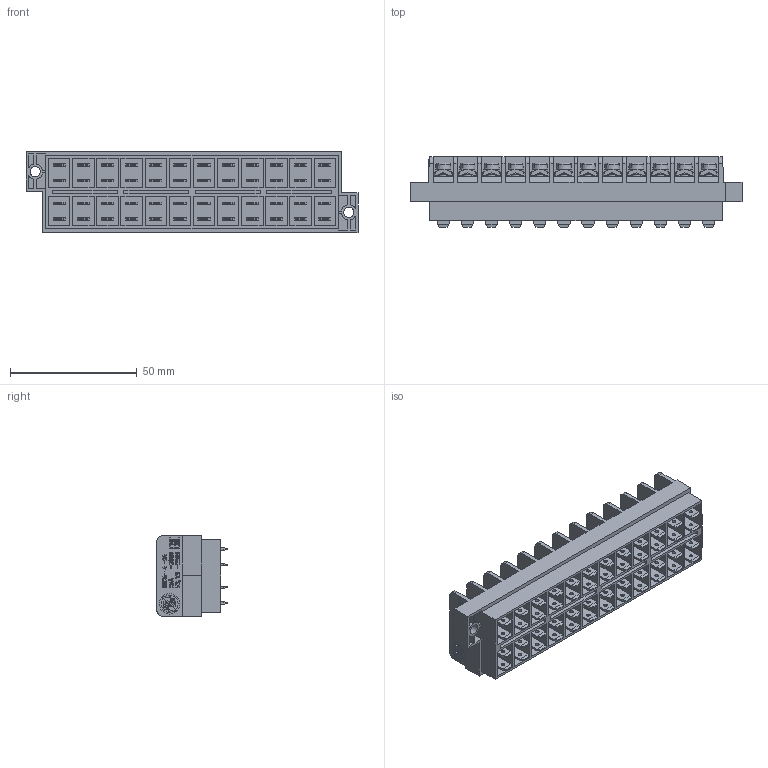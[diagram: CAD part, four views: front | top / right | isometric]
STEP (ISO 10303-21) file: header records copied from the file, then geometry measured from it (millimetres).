
FILE_DESCRIPTION(('STEP AP214'), '1');
FILE_NAME('栖闉罻 24', '', ('UNSPECIFIED'), ('UNSPECIFIED'), 'ASCON STEP Converter 1.6', 'ASCON Math Kernel', '');
FILE_SCHEMA(('AUTOMOTIVE_DESIGN { 1 0 10303 214 3 1 1}'));
Length unit declared in the file: millimetre
Bounding box: 131 x 27.7 x 32 mm (x, y, z)
Volume: 52070.8 mm3; surface area: 48886 mm2
Topology: 25 solids, 73 shells, 7155 faces, 20040 edges, 13118 vertices
Faces by surface type: plane 4884, cylinder 1331, bspline 628, cone 168, torus 144
Full cylindrical faces by diameter (mm): 0.4 x1, 0.51 x1, 0.512 x1, 1.4 x48, 2.45 x24, 3.5 x24, 4 x2
Entity records: 324324 total; most frequent: CARTESIAN_POINT 90295, ORIENTED_EDGE 39726, DIRECTION 31965, EDGE_CURVE 19863, LINE 13641, VECTOR 13641, VERTEX_POINT 13124, AXIS2_PLACEMENT_3D 9162
